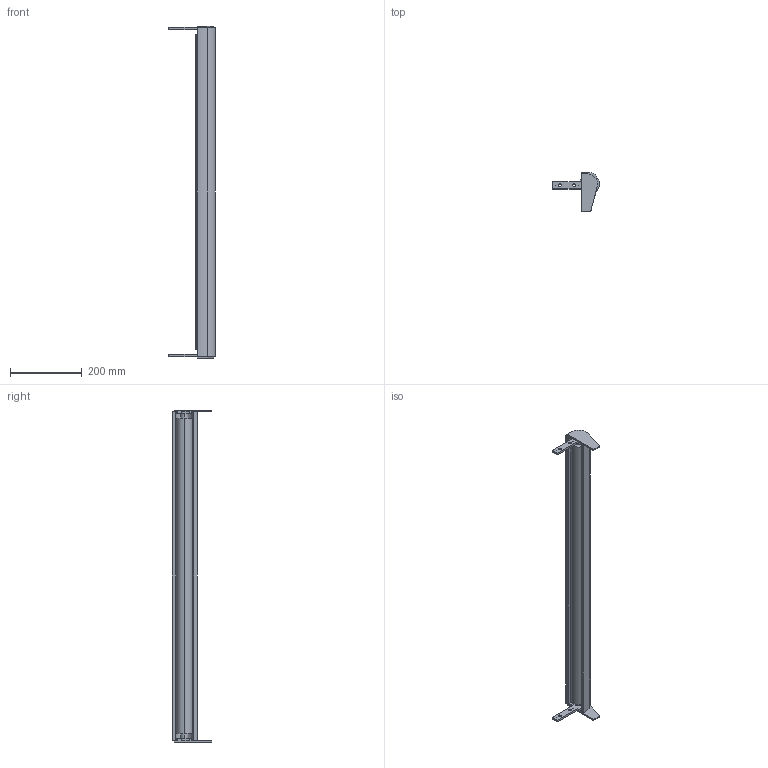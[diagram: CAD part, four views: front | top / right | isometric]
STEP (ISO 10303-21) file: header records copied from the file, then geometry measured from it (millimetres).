
FILE_DESCRIPTION (( 'STEP AP214' ), '1' );
FILE_NAME ('FS-160-MTS-100.ALU omloop 9301.STEP', '2017-02-08T11:45:53', ( '' ), ( '' ), 'SwSTEP 2.0', 'SolidWorks 2016', '' );
FILE_SCHEMA (( 'AUTOMOTIVE_DESIGN' ));
Length unit declared in the file: millimetre
Products named in the file (1): FS-160-MTS-100.ALU omloop 9301
Bounding box: 130.3 x 109 x 925 mm (x, y, z)
Volume: 2475653.8 mm3; surface area: 401853.3 mm2
Topology: 2 solids, 2 shells, 70 faces, 186 edges, 124 vertices
Faces by surface type: cylinder 36, plane 34
Entity records: 2277 total; most frequent: DIRECTION 400, CARTESIAN_POINT 381, ORIENTED_EDGE 372, EDGE_CURVE 186, AXIS2_PLACEMENT_3D 143, VERTEX_POINT 124, LINE 114, VECTOR 114
